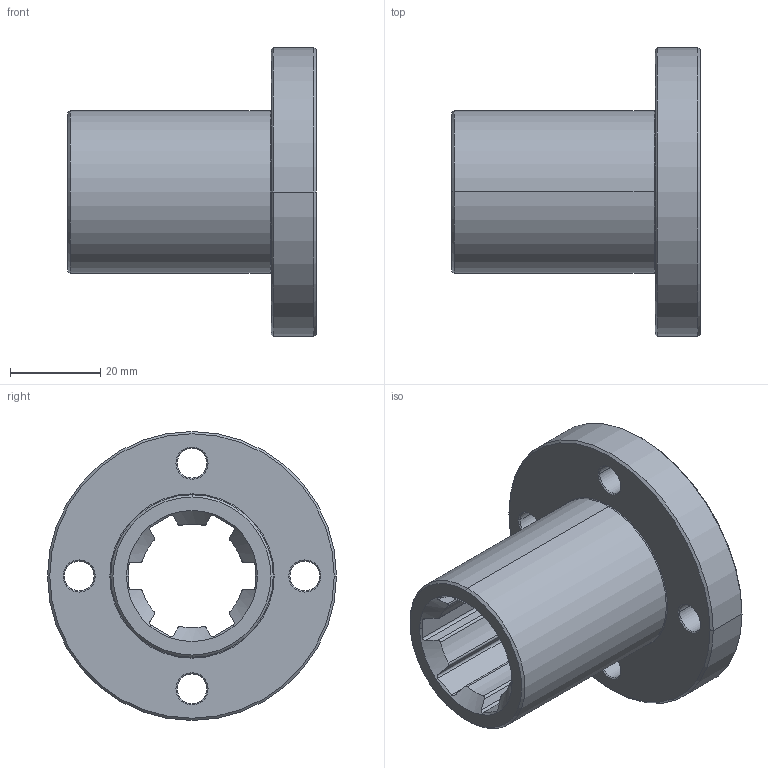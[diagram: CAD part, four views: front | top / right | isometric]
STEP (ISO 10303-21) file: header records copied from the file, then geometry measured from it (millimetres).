
FILE_DESCRIPTION((''),'2;1');
FILE_NAME('396-023-0000_PRT','2024-03-24T',('Brieden'),('ib-brieden'),'PRO/ENGINEER BY PARAMETRIC TECHNOLOGY CORPORATION, 2010160','PRO/ENGINEER BY PARAMETRIC TECHNOLOGY CORPORATION, 2010160','');
FILE_SCHEMA(('AUTOMOTIVE_DESIGN { 1 0 10303 214 1 1 1 1 }'));
Length unit declared in the file: millimetre
Products named in the file (1): 396-023-0000_PRT
Bounding box: 55 x 64 x 64 mm (x, y, z)
Volume: 46326.1 mm3; surface area: 18271.4 mm2
Topology: 1 solids, 1 shells, 98 faces, 254 edges, 160 vertices
Faces by surface type: cylinder 44, cone 28, plane 22, torus 4
Entity records: 4227 total; most frequent: CARTESIAN_POINT 1095, ORIENTED_EDGE 508, DIRECTION 438, PRESENTATION_STYLE_ASSIGNMENT 255, STYLED_ITEM 255, CURVE_STYLE 254, EDGE_CURVE 254, AXIS2_PLACEMENT_3D 174
